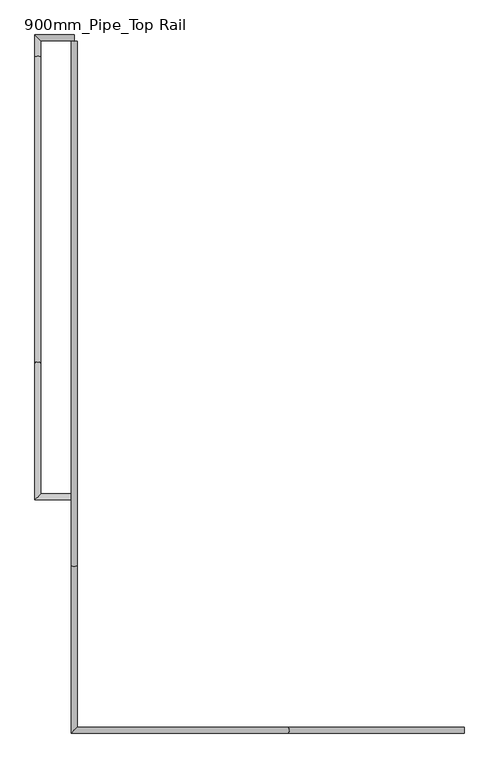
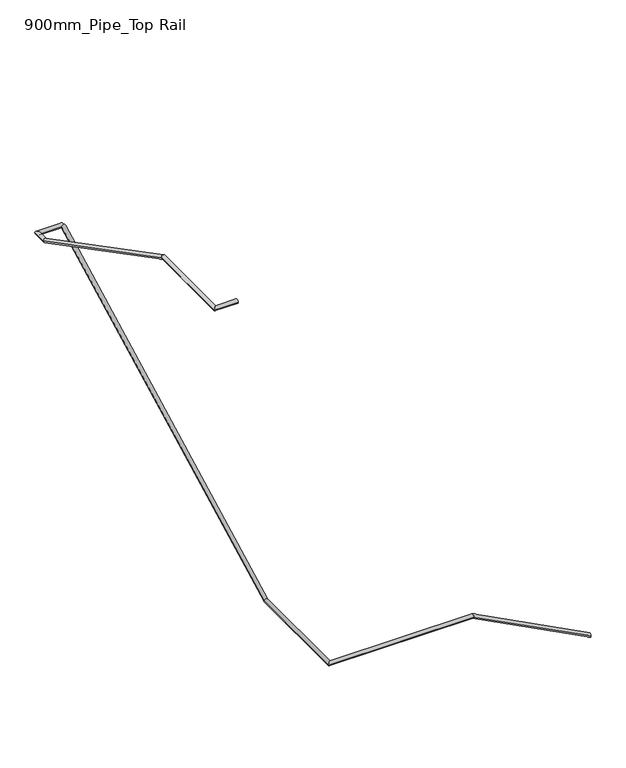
"""IFC4 building model written with IfcOpenShell, lengths in millimetres: railing geometry, 900mm_Pipe_Top Rail."""

from ifc_helpers import new_model, si_unit, frame, origin, place, context, project, spatial, circle_curve, ellipse_curve, source, transform, mapped, element, save
from ifc_brep_helpers import plane_surface, cylinder_surface, advanced_brep


def railing_900mm_pipe_top_rail_01716a69(model_context):
    return source(origin(), model_context, "Body", "AdvancedBrep", [
        advanced_brep(
        [(-11965.2146087, -130.1012772, 11046.25), (-11965.2146087, -90.1012772, 11046.25), (-12235.3216429, -90.1012772, 11046.25), (-12195.3216429, -130.1012772, 11046.25), (-12235.3216429, -3280.1011462, 12140.0), (-12195.3216429, -3240.1011462, 12140.0), (-12195.3216429, -2340.00012, 12140.0), (-12235.3216429, -2340.00012, 12140.0), (-11990.2146087, -3240.1011462, 12140.0), (-11990.2146087, -3280.1011462, 12140.0), (-12235.3216429, -240.00012, 11046.25), (-12195.3216429, -240.00012, 11046.25)],
        [
            (0, 1, circle_curve(frame((-11965.2146087, -110.1012772, 11046.25), z_axis=(1.0, 0.0, 0.0), x_axis=(0.0, 1.0, 0.0)), 20.0)),
            (1, 0, circle_curve(frame((-11965.2146087, -110.1012772, 11046.25), z_axis=(1.0, 0.0, 0.0), x_axis=(0.0, 1.0, 0.0)), 20.0)),
            (2, 3, ellipse_curve(frame((-12215.3216429, -110.1012772, 11046.25), z_axis=(0.7071067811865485, 0.7071067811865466, 0.0), x_axis=(-0.7071067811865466, 0.7071067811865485, 0.0)), 28.2842712, 20.0)),
            (3, 0),
            (1, 2),
            (3, 2, ellipse_curve(frame((-12215.3216429, -110.1012772, 11046.25), z_axis=(0.7071067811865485, 0.7071067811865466, 0.0), x_axis=(-0.7071067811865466, 0.7071067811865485, 0.0)), 28.2842712, 20.0)),
            (4, 5, ellipse_curve(frame((-12215.3216429, -3260.1011462, 12140.0), z_axis=(-0.7071067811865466, 0.7071067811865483, 0.0), x_axis=(-0.7071067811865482, -0.7071067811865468, 0.0)), 28.2842712, 20.0)),
            (5, 6),
            (6, 7, ellipse_curve(frame((-12215.3216429, -2340.00012, 12140.0), z_axis=(0.0, -0.9713171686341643, 0.23778763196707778), x_axis=(0.0, -0.2377876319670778, -0.9713171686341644)), 20.5905966, 20.0)),
            (7, 4),
            (5, 4, ellipse_curve(frame((-12215.3216429, -3260.1011462, 12140.0), z_axis=(-0.7071067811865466, 0.7071067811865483, 0.0), x_axis=(-0.7071067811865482, -0.7071067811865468, 0.0)), 28.2842712, 20.0)),
            (7, 6, ellipse_curve(frame((-12215.3216429, -2340.00012, 12140.0), z_axis=(0.0, -0.9713171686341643, 0.23778763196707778), x_axis=(0.0, -0.2377876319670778, -0.9713171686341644)), 20.5905966, 20.0)),
            (8, 9, circle_curve(frame((-11990.2146087, -3260.1011462, 12140.0), z_axis=(1.0, 0.0, 0.0), x_axis=(0.0, -1.0, 0.0)), 20.0)),
            (9, 8, circle_curve(frame((-11990.2146087, -3260.1011462, 12140.0), z_axis=(1.0, 0.0, 0.0), x_axis=(0.0, -1.0, 0.0)), 20.0)),
            (8, 5),
            (4, 9),
            (10, 11, ellipse_curve(frame((-12215.3216429, -240.00012, 11046.25), z_axis=(0.0, 0.9713171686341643, -0.23778763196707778), x_axis=(0.0, -0.2377876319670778, -0.9713171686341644)), 20.5905966, 20.0)),
            (11, 3),
            (2, 10),
            (11, 10, ellipse_curve(frame((-12215.3216429, -240.00012, 11046.25), z_axis=(0.0, 0.9713171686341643, -0.23778763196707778), x_axis=(0.0, -0.2377876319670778, -0.9713171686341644)), 20.5905966, 20.0)),
            (6, 11),
            (10, 7),
        ],
        [
            plane_surface(frame((-11965.2146087, -110.1012772, 11066.25), z_axis=(1.0, 0.0, 0.0), x_axis=(0.0, 1.0, 0.0))),
            cylinder_surface(frame((-12215.3216429, -110.1012772, 11046.25), z_axis=(-1.0, 0.0, 0.0), x_axis=(0.0, 1.0, 0.0)), 20.0),
            cylinder_surface(frame((-12215.3216429, -3260.1011462, 12140.0), z_axis=(0.0, -1.0, 0.0), x_axis=(-1.0, 0.0, 0.0)), 20.0),
            plane_surface(frame((-11990.2146087, -3260.1011462, 12160.0), z_axis=(1.0, 0.0, 0.0), x_axis=(0.0, -1.0, 0.0))),
            cylinder_surface(frame((-11990.2146087, -3260.1011462, 12140.0), z_axis=(1.0, 0.0, 0.0), x_axis=(0.0, -1.0, 0.0)), 20.0),
            cylinder_surface(frame((-12215.3216429, -235.1039308, 11046.25), z_axis=(0.0, -1.0, 0.0), x_axis=(-1.0, 0.0, 0.0)), 20.0),
            cylinder_surface(frame((-12215.3216429, -2344.3426192, 12142.2617183), z_axis=(0.0, -0.8869140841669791, 0.4619344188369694), x_axis=(-1.0, 0.0, 0.0)), 20.0),
        ],
        [
            (0, [[1, 2]]),
            (1, [[3, 4, -2, 5]]),
            (1, [[6, -5, -1, -4]]),
            (2, [[7, 8, 9, 10]]),
            (2, [[11, -10, 12, -8]]),
            (3, [[13, 14]]),
            (4, [[-13, 15, -7, 16]]),
            (4, [[-14, -16, -11, -15]]),
            (5, [[17, 18, -3, 19]]),
            (5, [[20, -19, -6, -18]]),
            (6, [[-9, 21, -17, 22]]),
            (6, [[-12, -22, -20, -21]]),
        ],
    ),
        advanced_brep(
        [(-11985.2146087, -135.1012772, 11043.6999015), (-11945.2146087, -135.1012772, 11043.6999015), (-11985.2146087, -3730.2050879, 9171.25), (-11945.2146087, -3730.2050879, 9171.25), (-9290.7914923, -4880.1039323, 8543.6999015), (-9290.7914923, -4840.1039323, 8543.6999015), (-10495.6876815, -4840.1039323, 9171.25), (-10495.6876815, -4880.1039323, 9171.25), (-11945.2146087, -4840.1039323, 9171.25), (-11985.2146087, -4880.1039323, 9171.25)],
        [
            (0, 1, ellipse_curve(frame((-11965.2146087, -135.1012772, 11043.6999015), z_axis=(0.0, 1.0, 0.0), x_axis=(0.0, 0.0, 1.0)), 22.5500985, 20.0)),
            (1, 0, ellipse_curve(frame((-11965.2146087, -135.1012772, 11043.6999015), z_axis=(0.0, 1.0, 0.0), x_axis=(0.0, 0.0, 1.0)), 22.5500985, 20.0)),
            (0, 2),
            (2, 3, ellipse_curve(frame((-11965.2146087, -3730.2050879, 9171.25), z_axis=(0.0, 0.9713171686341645, 0.23778763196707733), x_axis=(0.0, -0.2377876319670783, 0.9713171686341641)), 20.5905966, 20.0)),
            (3, 1),
            (3, 2, ellipse_curve(frame((-11965.2146087, -3730.2050879, 9171.25), z_axis=(0.0, 0.9713171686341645, 0.23778763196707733), x_axis=(0.0, -0.2377876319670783, 0.9713171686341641)), 20.5905966, 20.0)),
            (4, 5, ellipse_curve(frame((-9290.7914923, -4860.1039323, 8543.6999015), z_axis=(1.0, 0.0, 0.0), x_axis=(0.0, 0.0, 1.0)), 22.5500985, 20.0)),
            (5, 4, ellipse_curve(frame((-9290.7914923, -4860.1039323, 8543.6999015), z_axis=(1.0, 0.0, 0.0), x_axis=(0.0, 0.0, 1.0)), 22.5500985, 20.0)),
            (6, 7, ellipse_curve(frame((-10495.6876815, -4860.1039323, 9171.25), z_axis=(0.9713171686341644, 0.0, -0.2377876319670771), x_axis=(0.23778763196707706, 0.0, 0.9713171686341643)), 20.5905966, 20.0)),
            (7, 4),
            (5, 6),
            (7, 6, ellipse_curve(frame((-10495.6876815, -4860.1039323, 9171.25), z_axis=(0.9713171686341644, 0.0, -0.2377876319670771), x_axis=(0.23778763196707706, 0.0, 0.9713171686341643)), 20.5905966, 20.0)),
            (8, 9, ellipse_curve(frame((-11965.2146087, -4860.1039323, 9171.25), z_axis=(0.7071067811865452, -0.7071067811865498, 0.0), x_axis=(-0.7071067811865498, -0.7071067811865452, 0.0)), 28.2842712, 20.0)),
            (9, 7),
            (6, 8),
            (9, 8, ellipse_curve(frame((-11965.2146087, -4860.1039323, 9171.25), z_axis=(0.7071067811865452, -0.7071067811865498, 0.0), x_axis=(-0.7071067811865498, -0.7071067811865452, 0.0)), 28.2842712, 20.0)),
            (2, 9),
            (8, 3),
        ],
        [
            plane_surface(frame((-11965.2146087, -135.1012772, 11066.25), z_axis=(0.0, 1.0, 0.0), x_axis=(0.0, 0.0, -1.0))),
            cylinder_surface(frame((-11965.2146087, -125.8625888, 11048.5117183), z_axis=(0.0, 0.8869140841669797, 0.46193441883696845), x_axis=(1.0, 0.0, 0.0)), 20.0),
            plane_surface(frame((-9290.7914923, -4860.1039323, 8566.25), z_axis=(1.0, 0.0, 0.0), x_axis=(0.0, 1.0, 0.0))),
            cylinder_surface(frame((-10500.0301806, -4860.1039323, 9173.5117183), z_axis=(-0.8869140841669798, 0.0, 0.4619344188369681), x_axis=(0.0, 1.0, 0.0)), 20.0),
            cylinder_surface(frame((-11965.2146087, -4860.1039323, 9171.25), z_axis=(-1.0, 0.0, 0.0), x_axis=(0.0, 1.0, 0.0)), 20.0),
            cylinder_surface(frame((-11965.2146087, -3735.1012772, 9171.25), z_axis=(0.0, 1.0, 0.0), x_axis=(1.0, 0.0, 0.0)), 20.0),
        ],
        [
            (0, [[1, 2]]),
            (1, [[-1, 3, 4, 5]]),
            (1, [[-2, -5, 6, -3]]),
            (2, [[7, 8]]),
            (3, [[9, 10, -8, 11]]),
            (3, [[12, -11, -7, -10]]),
            (4, [[13, 14, -9, 15]]),
            (4, [[16, -15, -12, -14]]),
            (5, [[-4, 17, -13, 18]]),
            (5, [[-6, -18, -16, -17]]),
        ],
    ),
    ])


if __name__ == "__main__":
    model = new_model("IFC4")
    model_context = context("Model", 3, world=origin())
    ifc_project = project(units=[si_unit("LENGTHUNIT", "METRE", prefix="MILLI")], contexts=[model_context])
    site = spatial("IfcSite", under=ifc_project)
    building = spatial("IfcBuilding", under=site)
    placement = place(None, origin())
    railing_900mm_pipe_top_rail_shape = railing_900mm_pipe_top_rail_01716a69(model_context)
    element("IfcRailing", 1, ObjectType="900mm_Pipe_Top Rail", at=placement, inside=building, context=model_context, shape_type="MappedRepresentation", body=[
        mapped(railing_900mm_pipe_top_rail_shape, transform((0.0, 0.0, 0.0), x_axis=(1.0, 0.0, 0.0), y_axis=(0.0, 1.0, 0.0), z_axis=(0.0, 0.0, 1.0))),
    ])
    save(model, "model.ifc")
